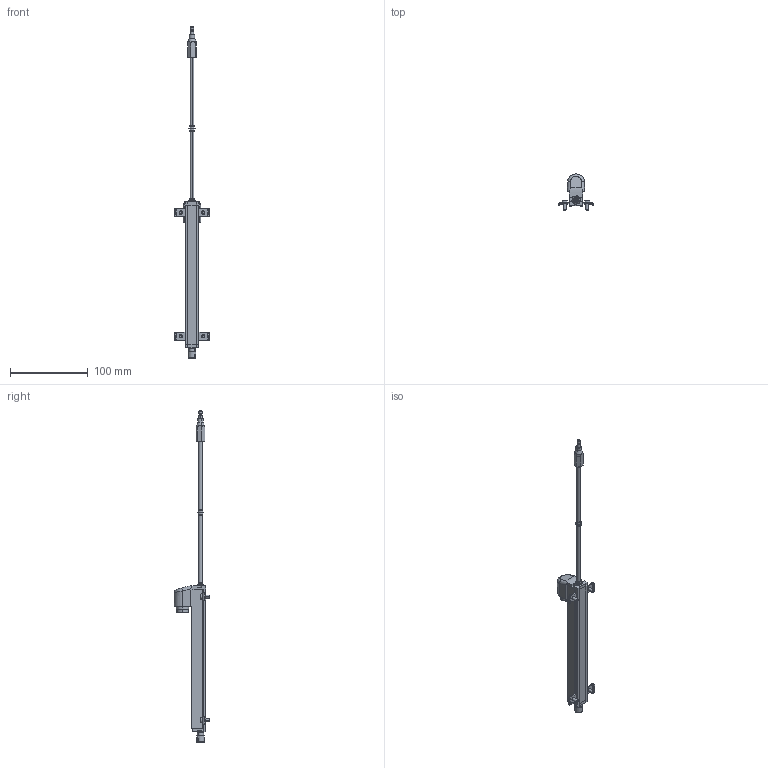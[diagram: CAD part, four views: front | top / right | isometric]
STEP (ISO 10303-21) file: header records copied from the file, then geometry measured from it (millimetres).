
FILE_DESCRIPTION(('STEP AP214'),'1');
FILE_NAME('burster_8712-150_13t2inirfpns9ywaqa3ueg9d.stp','2017-04-18T15:44:18',('TraceParts'),('TraceParts S.A.'),'Spatial InterOp 3D',' ',' ');
FILE_SCHEMA(('automotive_design'));
Length unit declared in the file: millimetre
Products named in the file (4): burster_8712-150_13t2inirfpns9ywaqa3ueg9d_1; burster_8712-150_13t2inirfpns9ywaqa3ueg9d_2; Volumenkörper1
Bounding box: 45 x 46.3 x 427.5 mm (x, y, z)
Volume: 77217 mm3; surface area: 27901.4 mm2
Topology: 4 solids, 5 shells, 500 faces, 1251 edges, 771 vertices
Faces by surface type: plane 207, cylinder 160, cone 70, torus 48, sphere 14, bspline 1
Entity records: 19511 total; most frequent: CARTESIAN_POINT 3334, DIRECTION 2658, ORIENTED_EDGE 2466, EDGE_CURVE 1233, AXIS2_PLACEMENT_3D 1022, VERTEX_POINT 771, LINE 614, VECTOR 614
